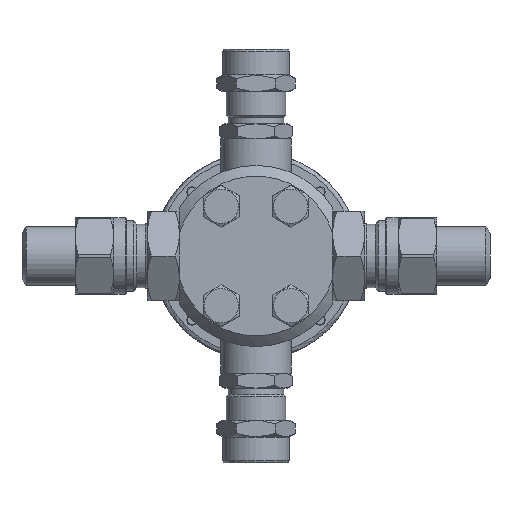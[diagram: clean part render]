
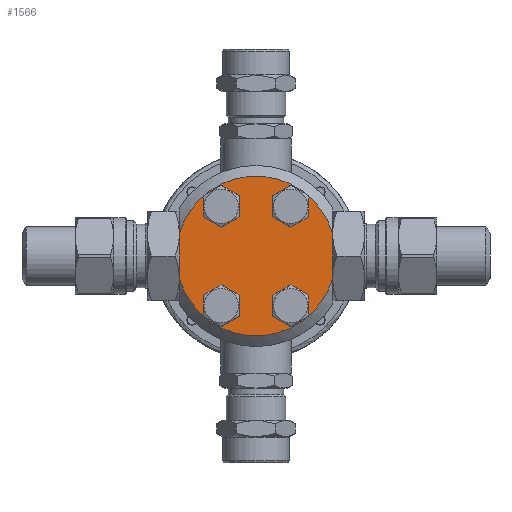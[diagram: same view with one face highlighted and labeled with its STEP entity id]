
A CAD part, front view. The second image highlights one B-rep face of the part: STEP entity #1566.
In plain terms, the highlighted planar face has unit normal (0, -1, 0).
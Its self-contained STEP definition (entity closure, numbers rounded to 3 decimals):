
#1566=ADVANCED_FACE('',(#18160,#18162,#18164,#18166,#18168),#18170,.T.);
#18160=FACE_BOUND('',#18161,.T.);
#18161=EDGE_LOOP('',(#29124,#29125,#29126,#29127));
#18162=FACE_BOUND('',#18163,.T.);
#18163=EDGE_LOOP('',(#29128,#29129,#29130,#29131,#29132));
#18164=FACE_BOUND('',#18165,.T.);
#18165=EDGE_LOOP('',(#29133,#29134,#29135,#29136,#29137));
#18166=FACE_BOUND('',#18167,.T.);
#18167=EDGE_LOOP('',(#29138,#29139,#29140,#29141,#29142));
#18168=FACE_OUTER_BOUND('',#18169,.T.);
#18169=EDGE_LOOP('',(#29143,#29144,#29145,#29146));
#18170=PLANE('',#18171);
#18171=AXIS2_PLACEMENT_3D('',#18172,#18173,#18174);
#18172=CARTESIAN_POINT('',(0.,-23.,0.));
#18173=DIRECTION('',(-0.,-1.,-0.));
#18174=DIRECTION('',(1.,0.,0.));
#29124=ORIENTED_EDGE('',*,*,#38622,.F.);
#29125=ORIENTED_EDGE('',*,*,#38600,.T.);
#29126=ORIENTED_EDGE('',*,*,#38634,.F.);
#29127=ORIENTED_EDGE('',*,*,#38641,.F.);
#29128=ORIENTED_EDGE('',*,*,#38604,.F.);
#29129=ORIENTED_EDGE('',*,*,#38588,.T.);
#29130=ORIENTED_EDGE('',*,*,#38586,.T.);
#29131=ORIENTED_EDGE('',*,*,#38616,.F.);
#29132=ORIENTED_EDGE('',*,*,#38642,.F.);
#29133=ORIENTED_EDGE('',*,*,#38542,.F.);
#29134=ORIENTED_EDGE('',*,*,#38592,.T.);
#29135=ORIENTED_EDGE('',*,*,#38590,.T.);
#29136=ORIENTED_EDGE('',*,*,#38554,.F.);
#29137=ORIENTED_EDGE('',*,*,#38643,.F.);
#29138=ORIENTED_EDGE('',*,*,#38524,.F.);
#29139=ORIENTED_EDGE('',*,*,#38596,.T.);
#29140=ORIENTED_EDGE('',*,*,#38594,.T.);
#29141=ORIENTED_EDGE('',*,*,#38536,.F.);
#29142=ORIENTED_EDGE('',*,*,#38644,.F.);
#29143=ORIENTED_EDGE('',*,*,#38566,.T.);
#29144=ORIENTED_EDGE('',*,*,#38645,.T.);
#29145=ORIENTED_EDGE('',*,*,#38580,.T.);
#29146=ORIENTED_EDGE('',*,*,#38646,.T.);
#38524=EDGE_CURVE('',#45787,#45788,#45789,.F.);
#38536=EDGE_CURVE('',#45809,#45810,#45811,.F.);
#38542=EDGE_CURVE('',#45819,#45820,#45821,.F.);
#38554=EDGE_CURVE('',#45841,#45842,#45843,.F.);
#38566=EDGE_CURVE('',#45864,#45862,#45865,.F.);
#38580=EDGE_CURVE('',#45890,#45888,#45891,.F.);
#38586=EDGE_CURVE('',#45901,#45898,#45902,.T.);
#38588=EDGE_CURVE('',#45899,#45901,#45904,.T.);
#38590=EDGE_CURVE('',#45906,#45842,#45907,.T.);
#38592=EDGE_CURVE('',#45819,#45906,#45909,.T.);
#38594=EDGE_CURVE('',#45911,#45810,#45912,.T.);
#38596=EDGE_CURVE('',#45787,#45911,#45914,.T.);
#38600=EDGE_CURVE('',#45916,#45919,#45921,.T.);
#38604=EDGE_CURVE('',#45899,#45927,#45928,.F.);
#38616=EDGE_CURVE('',#45948,#45898,#45949,.F.);
#38622=EDGE_CURVE('',#45916,#45957,#45958,.F.);
#38634=EDGE_CURVE('',#45978,#45919,#45979,.F.);
#38641=EDGE_CURVE('',#45957,#45978,#45988,.T.);
#38642=EDGE_CURVE('',#45927,#45948,#45989,.T.);
#38643=EDGE_CURVE('',#45820,#45841,#45990,.T.);
#38644=EDGE_CURVE('',#45788,#45809,#45991,.T.);
#38645=EDGE_CURVE('',#45862,#45890,#45992,.T.);
#38646=EDGE_CURVE('',#45888,#45864,#45993,.T.);
#45787=VERTEX_POINT('',#68068);
#45788=VERTEX_POINT('',#68069);
#45789=LINE('',#68070,#68071);
#45809=VERTEX_POINT('',#68116);
#45810=VERTEX_POINT('',#68117);
#45811=LINE('',#68118,#68119);
#45819=VERTEX_POINT('',#68142);
#45820=VERTEX_POINT('',#68143);
#45821=LINE('',#68144,#68145);
#45841=VERTEX_POINT('',#68190);
#45842=VERTEX_POINT('',#68191);
#45843=LINE('',#68192,#68193);
#45862=VERTEX_POINT('',#68268);
#45864=VERTEX_POINT('',#68296);
#45865=LINE('',#68297,#68298);
#45888=VERTEX_POINT('',#68433);
#45890=VERTEX_POINT('',#68461);
#45891=LINE('',#68462,#68463);
#45898=VERTEX_POINT('',#68532);
#45899=VERTEX_POINT('',#68533);
#45901=VERTEX_POINT('',#68538);
#45902=CIRCLE('',#68539,5.5);
#45904=CIRCLE('',#68546,5.5);
#45906=VERTEX_POINT('',#68554);
#45907=CIRCLE('',#68555,5.5);
#45909=CIRCLE('',#68562,5.5);
#45911=VERTEX_POINT('',#68570);
#45912=CIRCLE('',#68571,5.5);
#45914=CIRCLE('',#68578,5.5);
#45916=VERTEX_POINT('',#68583);
#45919=VERTEX_POINT('',#68591);
#45921=CIRCLE('',#68596,5.5);
#45927=VERTEX_POINT('',#68614);
#45928=LINE('',#68615,#68616);
#45948=VERTEX_POINT('',#68661);
#45949=LINE('',#68662,#68663);
#45957=VERTEX_POINT('',#68686);
#45958=LINE('',#68687,#68688);
#45978=VERTEX_POINT('',#68733);
#45979=LINE('',#68734,#68735);
#45988=CIRCLE('',#68762,7.6);
#45989=CIRCLE('',#68766,7.6);
#45990=CIRCLE('',#68770,7.6);
#45991=CIRCLE('',#68774,7.6);
#45992=CIRCLE('',#68778,37.5);
#45993=CIRCLE('',#68782,37.5);
#68068=CARTESIAN_POINT('',(-11.024,-23.,24.732));
#68069=CARTESIAN_POINT('',(-8.874,-23.,24.732));
#68070=CARTESIAN_POINT('',(-8.874,-23.,24.732));
#68071=VECTOR('',#68072,1.);
#68072=DIRECTION('',(-1.,0.,0.));
#68116=CARTESIAN_POINT('',(-8.762,-23.,22.87));
#68117=CARTESIAN_POINT('',(-10.868,-23.,22.87));
#68118=CARTESIAN_POINT('',(-10.868,-23.,22.87));
#68119=VECTOR('',#68120,1.);
#68120=DIRECTION('',(1.,0.,0.));
#68142=CARTESIAN_POINT('',(21.669,-23.,-21.96));
#68143=CARTESIAN_POINT('',(23.819,-23.,-21.96));
#68144=CARTESIAN_POINT('',(23.819,-23.,-21.96));
#68145=VECTOR('',#68146,1.);
#68146=DIRECTION('',(-1.,0.,0.));
#68190=CARTESIAN_POINT('',(23.932,-23.,-23.822));
#68191=CARTESIAN_POINT('',(21.826,-23.,-23.822));
#68192=CARTESIAN_POINT('',(21.826,-23.,-23.822));
#68193=VECTOR('',#68194,1.);
#68194=DIRECTION('',(1.,0.,0.));
#68268=CARTESIAN_POINT('',(36.,-23.,10.5));
#68296=CARTESIAN_POINT('',(36.,-23.,-10.5));
#68297=CARTESIAN_POINT('',(36.,-23.,10.5));
#68298=VECTOR('',#68299,1.);
#68299=DIRECTION('',(0.,0.,-1.));
#68433=CARTESIAN_POINT('',(-36.,-23.,-10.5));
#68461=CARTESIAN_POINT('',(-36.,-23.,10.5));
#68462=CARTESIAN_POINT('',(-36.,-23.,-10.5));
#68463=VECTOR('',#68464,1.);
#68464=DIRECTION('',(0.,0.,1.));
#68532=CARTESIAN_POINT('',(21.826,-23.,22.87));
#68533=CARTESIAN_POINT('',(21.669,-23.,24.732));
#68538=CARTESIAN_POINT('',(21.847,-23.,23.346));
#68539=AXIS2_PLACEMENT_3D('',#68540,#68541,#68542);
#68540=CARTESIAN_POINT('',(16.347,-23.,23.346));
#68541=DIRECTION('',(-0.,1.,0.));
#68542=DIRECTION('',(1.,0.,0.));
#68546=AXIS2_PLACEMENT_3D('',#68547,#68548,#68549);
#68547=CARTESIAN_POINT('',(16.347,-23.,23.346));
#68548=DIRECTION('',(-0.,1.,0.));
#68549=DIRECTION('',(0.968,0.,0.252));
#68554=CARTESIAN_POINT('',(21.847,-23.,-23.346));
#68555=AXIS2_PLACEMENT_3D('',#68556,#68557,#68558);
#68556=CARTESIAN_POINT('',(16.347,-23.,-23.346));
#68557=DIRECTION('',(-0.,1.,0.));
#68558=DIRECTION('',(1.,0.,0.));
#68562=AXIS2_PLACEMENT_3D('',#68563,#68564,#68565);
#68563=CARTESIAN_POINT('',(16.347,-23.,-23.346));
#68564=DIRECTION('',(-0.,1.,0.));
#68565=DIRECTION('',(0.968,0.,0.252));
#68570=CARTESIAN_POINT('',(-10.847,-23.,23.346));
#68571=AXIS2_PLACEMENT_3D('',#68572,#68573,#68574);
#68572=CARTESIAN_POINT('',(-16.347,-23.,23.346));
#68573=DIRECTION('',(-0.,1.,0.));
#68574=DIRECTION('',(1.,0.,0.));
#68578=AXIS2_PLACEMENT_3D('',#68579,#68580,#68581);
#68579=CARTESIAN_POINT('',(-16.347,-23.,23.346));
#68580=DIRECTION('',(-0.,1.,0.));
#68581=DIRECTION('',(0.968,0.,0.252));
#68583=CARTESIAN_POINT('',(-11.024,-23.,-21.96));
#68591=CARTESIAN_POINT('',(-10.868,-23.,-23.822));
#68596=AXIS2_PLACEMENT_3D('',#68597,#68598,#68599);
#68597=CARTESIAN_POINT('',(-16.347,-23.,-23.346));
#68598=DIRECTION('',(0.,1.,-0.));
#68599=DIRECTION('',(0.968,0.,0.252));
#68614=CARTESIAN_POINT('',(23.819,-23.,24.732));
#68615=CARTESIAN_POINT('',(23.819,-23.,24.732));
#68616=VECTOR('',#68617,1.);
#68617=DIRECTION('',(-1.,0.,0.));
#68661=CARTESIAN_POINT('',(23.932,-23.,22.87));
#68662=CARTESIAN_POINT('',(21.826,-23.,22.87));
#68663=VECTOR('',#68664,1.);
#68664=DIRECTION('',(1.,0.,0.));
#68686=CARTESIAN_POINT('',(-8.874,-23.,-21.96));
#68687=CARTESIAN_POINT('',(-8.874,-23.,-21.96));
#68688=VECTOR('',#68689,1.);
#68689=DIRECTION('',(-1.,0.,0.));
#68733=CARTESIAN_POINT('',(-8.762,-23.,-23.822));
#68734=CARTESIAN_POINT('',(-10.868,-23.,-23.822));
#68735=VECTOR('',#68736,1.);
#68736=DIRECTION('',(1.,0.,0.));
#68762=AXIS2_PLACEMENT_3D('',#68763,#68764,#68765);
#68763=CARTESIAN_POINT('',(-16.347,-23.,-23.346));
#68764=DIRECTION('',(0.,-1.,0.));
#68765=DIRECTION('',(0.983,0.,0.182));
#68766=AXIS2_PLACEMENT_3D('',#68767,#68768,#68769);
#68767=CARTESIAN_POINT('',(16.347,-23.,23.346));
#68768=DIRECTION('',(0.,-1.,0.));
#68769=DIRECTION('',(0.983,0.,0.182));
#68770=AXIS2_PLACEMENT_3D('',#68771,#68772,#68773);
#68771=CARTESIAN_POINT('',(16.347,-23.,-23.346));
#68772=DIRECTION('',(0.,-1.,0.));
#68773=DIRECTION('',(0.983,0.,0.182));
#68774=AXIS2_PLACEMENT_3D('',#68775,#68776,#68777);
#68775=CARTESIAN_POINT('',(-16.347,-23.,23.346));
#68776=DIRECTION('',(0.,-1.,0.));
#68777=DIRECTION('',(0.983,0.,0.182));
#68778=AXIS2_PLACEMENT_3D('',#68779,#68780,#68781);
#68779=CARTESIAN_POINT('',(0.,-23.,0.));
#68780=DIRECTION('',(0.,-1.,0.));
#68781=DIRECTION('',(0.96,0.,0.28));
#68782=AXIS2_PLACEMENT_3D('',#68783,#68784,#68785);
#68783=CARTESIAN_POINT('',(0.,-23.,0.));
#68784=DIRECTION('',(0.,-1.,0.));
#68785=DIRECTION('',(-0.96,0.,-0.28));
